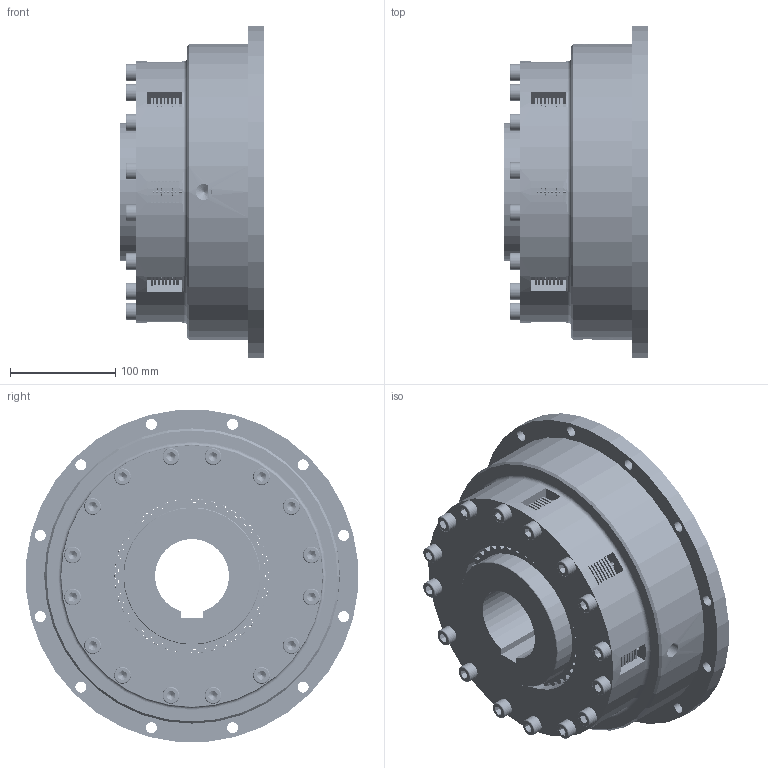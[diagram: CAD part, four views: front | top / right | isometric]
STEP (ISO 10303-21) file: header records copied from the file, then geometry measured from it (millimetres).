
FILE_DESCRIPTION(/* description */ (''),/* implementation_level */ '2;1');
FILE_NAME(/* name */ 'T:\INVENTOR\DISEGNI\03_Friz_Oleod_Pneum_Cil_Stat\03_40 FPL-N\03_40_010_01 FPL_N10\C\03_40_010_02 FPL-N010C_Bore70@STEP.stp',/* time_stamp */ '2020-02-10T12:47:22+01:00',/* author */ ('w.sartori'),/* organization */ (''),/* preprocessor_version */ 'ST-DEVELOPER v16.13',/* originating_system */ 'Autodesk Inventor 2018',/* authorisation */ '');
FILE_SCHEMA (('AUTOMOTIVE_DESIGN { 1 0 10303 214 3 1 1 }'));
Products named in the file (1): 03_40_010_02 FPL-N010C_Bore70
Bounding box: 137.5 x 314.8 x 314.8 mm (x, y, z)
Volume: 5192732.6 mm3; surface area: 835120 mm2
Topology: 9 solids, 231 shells, 8405 faces, 25131 edges, 16154 vertices
Faces by surface type: plane 4959, cylinder 1803, bspline 1328, torus 165, cone 150
Full cylindrical faces by diameter (mm): 2 x8, 3 x8, 6 x8, 6.647 x1, 8.376 x28, 10 x28, 10.5 x40, 14.95 x1, 15.5 x24, 16 x28, 16.5 x12, 130 x1, 148.5 x8, 150 x3, 170 x1, 178 x2, 180.189 x1, 188.389 x1, 190 x4, 214 x7, 216 x1, 230 x2, 233.456 x1, 247.456 x1, 248 x1, 250 x4, 280 x1, 316 x1
Entity records: 353407 total; most frequent: CARTESIAN_POINT 123604, ORIENTED_EDGE 48948, DIRECTION 42036, EDGE_CURVE 24462, VERTEX_POINT 15930, LINE 15520, VECTOR 15520, AXIS2_PLACEMENT_3D 13258
